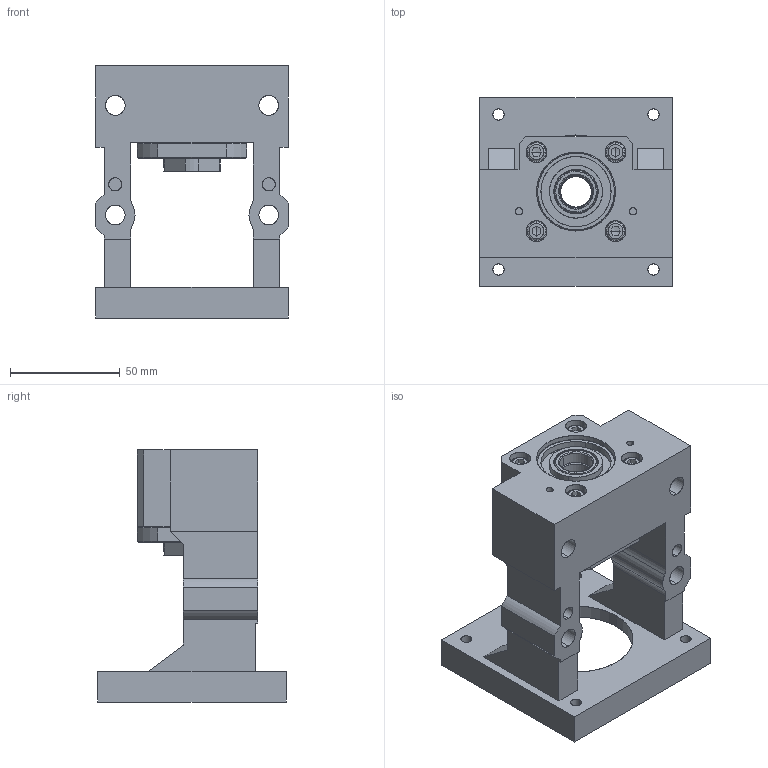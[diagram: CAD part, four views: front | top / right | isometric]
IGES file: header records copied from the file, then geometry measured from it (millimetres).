
Start section: SolidWorks IGES file using analytic representation for surfaces
Bounding box: 88 x 86 x 115 mm (x, y, z)
Surface area: 63107.9 mm2 (no closed solid volume)
Topology: 0 solids, 0 shells, 243 faces, 4173 edges, 4165 vertices
Faces by surface type: revolution 122, bspline 121
